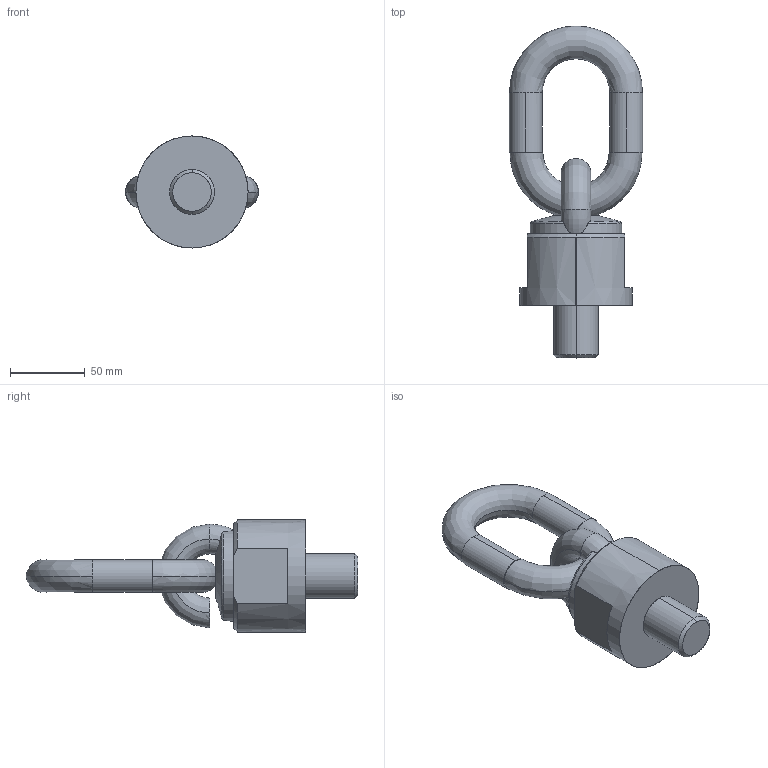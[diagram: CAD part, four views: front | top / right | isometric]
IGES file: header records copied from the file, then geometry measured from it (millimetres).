
Start section: START RECORD GO HERE.
Global section: file name: C8000503035.igs; native system: DASSAULT SYSTEMES CATIA V5 R20 - www.3ds.com; preprocessor: CATIA Version 5 Release 20 ; author: Utente; organization: NB04-ASUS; date: 20200412.161448; units: millimetre
Bounding box: 89 x 222 x 75 mm (x, y, z)
Surface area: 48374.8 mm2 (no closed solid volume)
Topology: 0 solids, 0 shells, 42 faces, 237 edges, 237 vertices
Faces by surface type: revolution 30, extrusion 12
